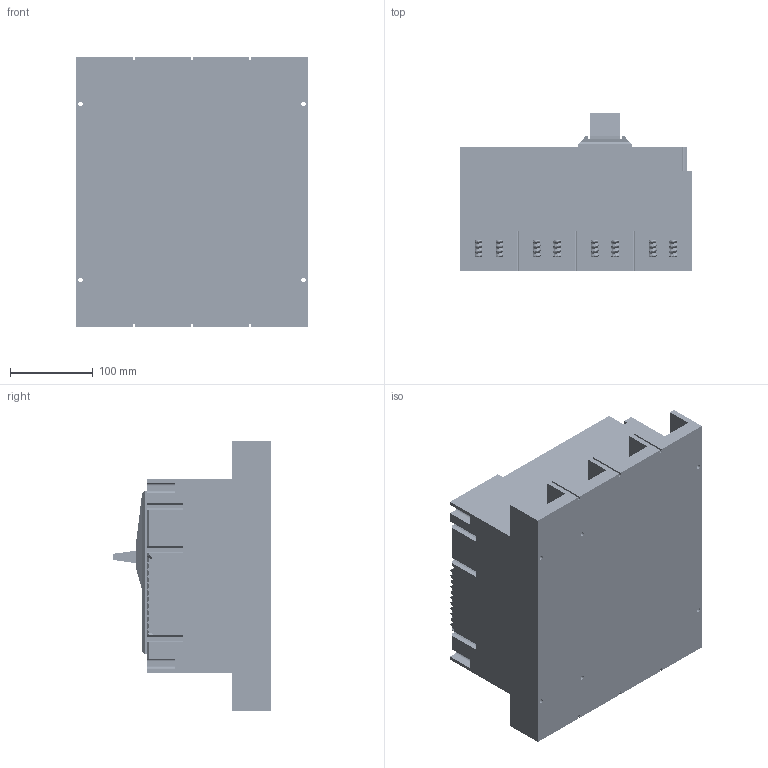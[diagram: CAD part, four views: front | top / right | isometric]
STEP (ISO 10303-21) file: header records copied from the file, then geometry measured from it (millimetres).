
FILE_DESCRIPTION(/* description */ ('','CAx-IF Rec.Pracs.---Representation and Presentation of Product Manufacturing Information (PMI)---3.8---2014-02-18'),/* implementation_level */ '2;1');
FILE_NAME(/* name */ 'E:\3D model\53-susol-mccb-1600af-iec-4p.stp',/* time_stamp */ '2017-11-09T15:10:03+03:00',/* author */ ('dobrin'),/* organization */ (''),/* preprocessor_version */ 'ST-DEVELOPER v16.13',/* originating_system */ 'Autodesk Inventor 2018',/* authorisation */ '');
FILE_SCHEMA (('AP242_MANAGED_MODEL_BASED_3D_ENGINEERING_MIM_LF { 1 0 10303 442 1 1 4 }'));
Products named in the file (1): 53-susol-mccb-1600af-iec-4p
Bounding box: 280 x 190.6 x 327 mm (x, y, z)
Volume: 10236170.9 mm3; surface area: 456974.5 mm2
Topology: 1 solids, 1 shells, 1067 faces, 2796 edges, 1790 vertices
Faces by surface type: plane 653, bspline 240, cylinder 147, cone 18, torus 9
Full cylindrical faces by diameter (mm): 2.6 x6, 5.3 x6, 6 x9, 7 x9
Entity records: 97011 total; most frequent: CARTESIAN_POINT 72318, ORIENTED_EDGE 5484, DIRECTION 4309, EDGE_CURVE 2741, LINE 1831, VECTOR 1831, VERTEX_POINT 1776, AXIS2_PLACEMENT_3D 1243
